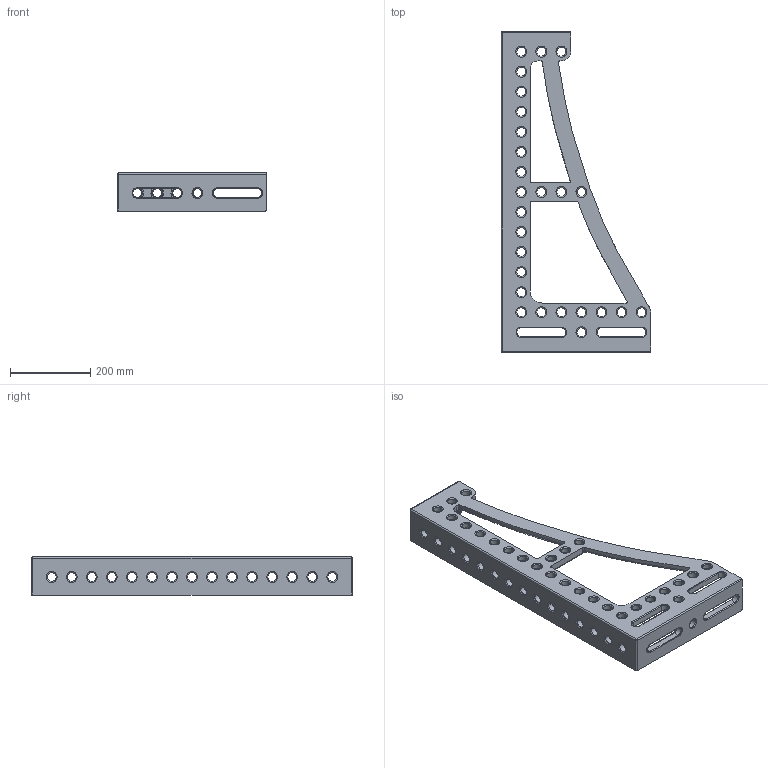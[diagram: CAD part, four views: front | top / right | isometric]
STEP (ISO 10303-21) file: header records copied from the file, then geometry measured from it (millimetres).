
FILE_DESCRIPTION (( 'STEP AP203' ), '1' );
FILE_NAME ('220144.STEP', '2020-03-02T10:38:46', ( '' ), ( '' ), 'SwSTEP 2.0', 'SolidWorks 2019', '' );
FILE_SCHEMA (( 'CONFIG_CONTROL_DESIGN' ));
Products named in the file (1): 220144
Bounding box: 373 x 800 x 95 mm (x, y, z)
Volume: 3551657.5 mm3; surface area: 548443.9 mm2
Topology: 1 solids, 1 shells, 1073 faces, 2613 edges, 1588 vertices
Faces by surface type: cylinder 333, bspline 282, plane 222, torus 138, cone 90, sphere 8
Entity records: 43529 total; most frequent: CARTESIAN_POINT 19618, ORIENTED_EDGE 5178, DIRECTION 4654, EDGE_CURVE 2589, AXIS2_PLACEMENT_3D 1840, VERTEX_POINT 1588, EDGE_LOOP 1245, ADVANCED_FACE 1073
